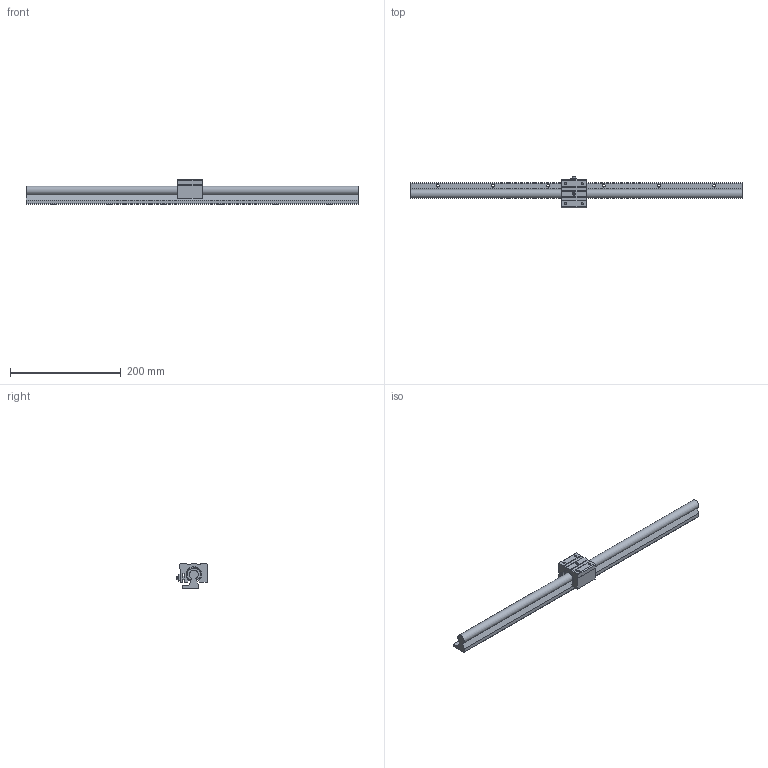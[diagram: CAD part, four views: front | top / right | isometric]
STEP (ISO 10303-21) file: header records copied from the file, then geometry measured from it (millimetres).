
FILE_DESCRIPTION((''),'2;1');
FILE_NAME('D:\製品 (図面)\カタログ用3D\リニアガイド関連\STEP形式\GTA(W)\GTA16.stp','2010-06-08T09:16:34',('Tsuchiya'),(''),'Autodesk Inventor 10','Autodesk Inventor 10','');
FILE_SCHEMA(('AUTOMOTIVE_DESIGN { 1 0 10303 214 1 1 1 1 }'));
Length unit declared in the file: millimetre
Products named in the file (3): GTA16; GTA161; GTA162
Assembly tree (2 placements, depth 2):
  GTA16
    GTA161
    GTA162
Bounding box: 600 x 56.5 x 45 mm (x, y, z)
Volume: 350869.4 mm3; surface area: 89372.4 mm2
Topology: 2 solids, 2 shells, 191 faces, 496 edges, 320 vertices
Faces by surface type: plane 113, cylinder 39, cone 21, bspline 10, torus 8
Full cylindrical faces by diameter (mm): 5.5 x6, 6 x2, 8.5 x6, 8.9 x6
Entity records: 5535 total; most frequent: CARTESIAN_POINT 1252, ORIENTED_EDGE 858, DIRECTION 834, EDGE_CURVE 429, VERTEX_POINT 297, AXIS2_PLACEMENT_3D 295, EDGE_LOOP 264, VECTOR 244
